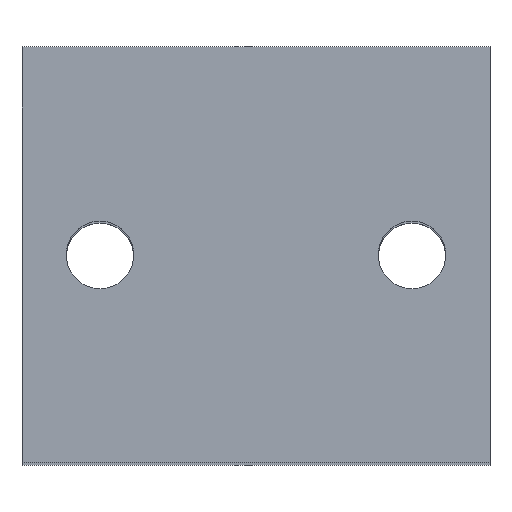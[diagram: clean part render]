
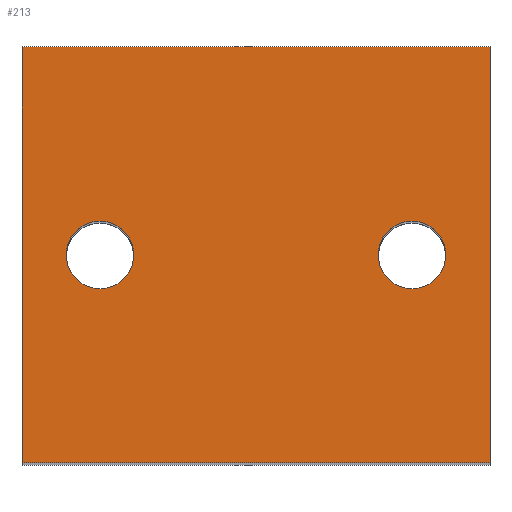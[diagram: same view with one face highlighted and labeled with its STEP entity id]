
A CAD part, top view. The second image highlights one B-rep face of the part: STEP entity #213.
In plain terms, the highlighted planar face has unit normal (0, 0, 1).
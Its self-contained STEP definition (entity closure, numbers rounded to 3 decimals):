
#24 = VERTEX_POINT('',#25);
#25 = CARTESIAN_POINT('',(-18.,-16.,101.));
#32 = PLANE('',#33);
#33 = AXIS2_PLACEMENT_3D('',#34,#35,#36);
#34 = CARTESIAN_POINT('',(-18.,-16.,96.));
#35 = DIRECTION('',(1.,0.,-0.));
#36 = DIRECTION('',(0.,0.,1.));
#44 = PLANE('',#45);
#45 = AXIS2_PLACEMENT_3D('',#46,#47,#48);
#46 = CARTESIAN_POINT('',(-18.,-16.,96.));
#47 = DIRECTION('',(-0.,1.,0.));
#48 = DIRECTION('',(0.,0.,1.));
#85 = VERTEX_POINT('',#86);
#86 = CARTESIAN_POINT('',(-18.,16.,101.));
#100 = PLANE('',#101);
#101 = AXIS2_PLACEMENT_3D('',#102,#103,#104);
#102 = CARTESIAN_POINT('',(-18.,16.,96.));
#103 = DIRECTION('',(-0.,1.,0.));
#104 = DIRECTION('',(0.,0.,1.));
#112 = EDGE_CURVE('',#24,#85,#113,.T.);
#113 = SURFACE_CURVE('',#114,(#118,#125),.PCURVE_S1.);
#114 = LINE('',#115,#116);
#115 = CARTESIAN_POINT('',(-18.,-16.,101.));
#116 = VECTOR('',#117,1.);
#117 = DIRECTION('',(-0.,1.,0.));
#118 = PCURVE('',#32,#119);
#119 = DEFINITIONAL_REPRESENTATION('',(#120),#124);
#120 = LINE('',#121,#122);
#121 = CARTESIAN_POINT('',(5.,0.));
#122 = VECTOR('',#123,1.);
#123 = DIRECTION('',(0.,-1.));
#124 = ( GEOMETRIC_REPRESENTATION_CONTEXT(2) 
PARAMETRIC_REPRESENTATION_CONTEXT() REPRESENTATION_CONTEXT('2D SPACE',''
  ) );
#125 = PCURVE('',#126,#131);
#126 = PLANE('',#127);
#127 = AXIS2_PLACEMENT_3D('',#128,#129,#130);
#128 = CARTESIAN_POINT('',(-18.,-16.,101.));
#129 = DIRECTION('',(0.,0.,1.));
#130 = DIRECTION('',(1.,0.,-0.));
#131 = DEFINITIONAL_REPRESENTATION('',(#132),#136);
#132 = LINE('',#133,#134);
#133 = CARTESIAN_POINT('',(0.,0.));
#134 = VECTOR('',#135,1.);
#135 = DIRECTION('',(0.,1.));
#136 = ( GEOMETRIC_REPRESENTATION_CONTEXT(2) 
PARAMETRIC_REPRESENTATION_CONTEXT() REPRESENTATION_CONTEXT('2D SPACE',''
  ) );
#165 = EDGE_CURVE('',#24,#166,#168,.T.);
#166 = VERTEX_POINT('',#167);
#167 = CARTESIAN_POINT('',(18.,-16.,101.));
#168 = SURFACE_CURVE('',#169,(#173,#180),.PCURVE_S1.);
#169 = LINE('',#170,#171);
#170 = CARTESIAN_POINT('',(-18.,-16.,101.));
#171 = VECTOR('',#172,1.);
#172 = DIRECTION('',(1.,0.,-0.));
#173 = PCURVE('',#44,#174);
#174 = DEFINITIONAL_REPRESENTATION('',(#175),#179);
#175 = LINE('',#176,#177);
#176 = CARTESIAN_POINT('',(5.,0.));
#177 = VECTOR('',#178,1.);
#178 = DIRECTION('',(0.,1.));
#179 = ( GEOMETRIC_REPRESENTATION_CONTEXT(2) 
PARAMETRIC_REPRESENTATION_CONTEXT() REPRESENTATION_CONTEXT('2D SPACE',''
  ) );
#180 = PCURVE('',#126,#181);
#181 = DEFINITIONAL_REPRESENTATION('',(#182),#186);
#182 = LINE('',#183,#184);
#183 = CARTESIAN_POINT('',(0.,0.));
#184 = VECTOR('',#185,1.);
#185 = DIRECTION('',(1.,0.));
#186 = ( GEOMETRIC_REPRESENTATION_CONTEXT(2) 
PARAMETRIC_REPRESENTATION_CONTEXT() REPRESENTATION_CONTEXT('2D SPACE',''
  ) );
#202 = PLANE('',#203);
#203 = AXIS2_PLACEMENT_3D('',#204,#205,#206);
#204 = CARTESIAN_POINT('',(18.,-16.,96.));
#205 = DIRECTION('',(1.,0.,-0.));
#206 = DIRECTION('',(0.,0.,1.));
#213 = ADVANCED_FACE('',(#214,#262,#293),#126,.T.);
#214 = FACE_BOUND('',#215,.T.);
#215 = EDGE_LOOP('',(#216,#217,#218,#241));
#216 = ORIENTED_EDGE('',*,*,#112,.F.);
#217 = ORIENTED_EDGE('',*,*,#165,.T.);
#218 = ORIENTED_EDGE('',*,*,#219,.T.);
#219 = EDGE_CURVE('',#166,#220,#222,.T.);
#220 = VERTEX_POINT('',#221);
#221 = CARTESIAN_POINT('',(18.,16.,101.));
#222 = SURFACE_CURVE('',#223,(#227,#234),.PCURVE_S1.);
#223 = LINE('',#224,#225);
#224 = CARTESIAN_POINT('',(18.,-16.,101.));
#225 = VECTOR('',#226,1.);
#226 = DIRECTION('',(-0.,1.,0.));
#227 = PCURVE('',#126,#228);
#228 = DEFINITIONAL_REPRESENTATION('',(#229),#233);
#229 = LINE('',#230,#231);
#230 = CARTESIAN_POINT('',(36.,0.));
#231 = VECTOR('',#232,1.);
#232 = DIRECTION('',(0.,1.));
#233 = ( GEOMETRIC_REPRESENTATION_CONTEXT(2) 
PARAMETRIC_REPRESENTATION_CONTEXT() REPRESENTATION_CONTEXT('2D SPACE',''
  ) );
#234 = PCURVE('',#202,#235);
#235 = DEFINITIONAL_REPRESENTATION('',(#236),#240);
#236 = LINE('',#237,#238);
#237 = CARTESIAN_POINT('',(5.,0.));
#238 = VECTOR('',#239,1.);
#239 = DIRECTION('',(0.,-1.));
#240 = ( GEOMETRIC_REPRESENTATION_CONTEXT(2) 
PARAMETRIC_REPRESENTATION_CONTEXT() REPRESENTATION_CONTEXT('2D SPACE',''
  ) );
#241 = ORIENTED_EDGE('',*,*,#242,.F.);
#242 = EDGE_CURVE('',#85,#220,#243,.T.);
#243 = SURFACE_CURVE('',#244,(#248,#255),.PCURVE_S1.);
#244 = LINE('',#245,#246);
#245 = CARTESIAN_POINT('',(-18.,16.,101.));
#246 = VECTOR('',#247,1.);
#247 = DIRECTION('',(1.,0.,-0.));
#248 = PCURVE('',#126,#249);
#249 = DEFINITIONAL_REPRESENTATION('',(#250),#254);
#250 = LINE('',#251,#252);
#251 = CARTESIAN_POINT('',(0.,32.));
#252 = VECTOR('',#253,1.);
#253 = DIRECTION('',(1.,0.));
#254 = ( GEOMETRIC_REPRESENTATION_CONTEXT(2) 
PARAMETRIC_REPRESENTATION_CONTEXT() REPRESENTATION_CONTEXT('2D SPACE',''
  ) );
#255 = PCURVE('',#100,#256);
#256 = DEFINITIONAL_REPRESENTATION('',(#257),#261);
#257 = LINE('',#258,#259);
#258 = CARTESIAN_POINT('',(5.,0.));
#259 = VECTOR('',#260,1.);
#260 = DIRECTION('',(0.,1.));
#261 = ( GEOMETRIC_REPRESENTATION_CONTEXT(2) 
PARAMETRIC_REPRESENTATION_CONTEXT() REPRESENTATION_CONTEXT('2D SPACE',''
  ) );
#262 = FACE_BOUND('',#263,.T.);
#263 = EDGE_LOOP('',(#264));
#264 = ORIENTED_EDGE('',*,*,#265,.F.);
#265 = EDGE_CURVE('',#266,#266,#268,.T.);
#266 = VERTEX_POINT('',#267);
#267 = CARTESIAN_POINT('',(-9.4,0.,101.));
#268 = SURFACE_CURVE('',#269,(#274,#281),.PCURVE_S1.);
#269 = CIRCLE('',#270,2.6);
#270 = AXIS2_PLACEMENT_3D('',#271,#272,#273);
#271 = CARTESIAN_POINT('',(-12.,0.,101.));
#272 = DIRECTION('',(0.,0.,1.));
#273 = DIRECTION('',(1.,0.,-0.));
#274 = PCURVE('',#126,#275);
#275 = DEFINITIONAL_REPRESENTATION('',(#276),#280);
#276 = CIRCLE('',#277,2.6);
#277 = AXIS2_PLACEMENT_2D('',#278,#279);
#278 = CARTESIAN_POINT('',(6.,16.));
#279 = DIRECTION('',(1.,0.));
#280 = ( GEOMETRIC_REPRESENTATION_CONTEXT(2) 
PARAMETRIC_REPRESENTATION_CONTEXT() REPRESENTATION_CONTEXT('2D SPACE',''
  ) );
#281 = PCURVE('',#282,#287);
#282 = CYLINDRICAL_SURFACE('',#283,2.6);
#283 = AXIS2_PLACEMENT_3D('',#284,#285,#286);
#284 = CARTESIAN_POINT('',(-12.,0.,-5.));
#285 = DIRECTION('',(0.,0.,1.));
#286 = DIRECTION('',(1.,0.,0.));
#287 = DEFINITIONAL_REPRESENTATION('',(#288),#292);
#288 = LINE('',#289,#290);
#289 = CARTESIAN_POINT('',(0.,106.));
#290 = VECTOR('',#291,1.);
#291 = DIRECTION('',(1.,0.));
#292 = ( GEOMETRIC_REPRESENTATION_CONTEXT(2) 
PARAMETRIC_REPRESENTATION_CONTEXT() REPRESENTATION_CONTEXT('2D SPACE',''
  ) );
#293 = FACE_BOUND('',#294,.T.);
#294 = EDGE_LOOP('',(#295));
#295 = ORIENTED_EDGE('',*,*,#296,.F.);
#296 = EDGE_CURVE('',#297,#297,#299,.T.);
#297 = VERTEX_POINT('',#298);
#298 = CARTESIAN_POINT('',(14.6,0.,101.));
#299 = SURFACE_CURVE('',#300,(#305,#312),.PCURVE_S1.);
#300 = CIRCLE('',#301,2.6);
#301 = AXIS2_PLACEMENT_3D('',#302,#303,#304);
#302 = CARTESIAN_POINT('',(12.,0.,101.));
#303 = DIRECTION('',(0.,0.,1.));
#304 = DIRECTION('',(1.,0.,-0.));
#305 = PCURVE('',#126,#306);
#306 = DEFINITIONAL_REPRESENTATION('',(#307),#311);
#307 = CIRCLE('',#308,2.6);
#308 = AXIS2_PLACEMENT_2D('',#309,#310);
#309 = CARTESIAN_POINT('',(30.,16.));
#310 = DIRECTION('',(1.,0.));
#311 = ( GEOMETRIC_REPRESENTATION_CONTEXT(2) 
PARAMETRIC_REPRESENTATION_CONTEXT() REPRESENTATION_CONTEXT('2D SPACE',''
  ) );
#312 = PCURVE('',#313,#318);
#313 = CYLINDRICAL_SURFACE('',#314,2.6);
#314 = AXIS2_PLACEMENT_3D('',#315,#316,#317);
#315 = CARTESIAN_POINT('',(12.,0.,-5.));
#316 = DIRECTION('',(0.,0.,1.));
#317 = DIRECTION('',(1.,0.,0.));
#318 = DEFINITIONAL_REPRESENTATION('',(#319),#323);
#319 = LINE('',#320,#321);
#320 = CARTESIAN_POINT('',(0.,106.));
#321 = VECTOR('',#322,1.);
#322 = DIRECTION('',(1.,0.));
#323 = ( GEOMETRIC_REPRESENTATION_CONTEXT(2) 
PARAMETRIC_REPRESENTATION_CONTEXT() REPRESENTATION_CONTEXT('2D SPACE',''
  ) );
